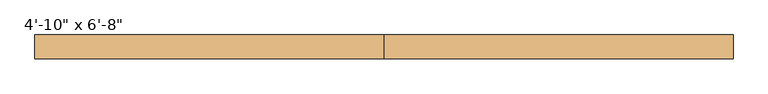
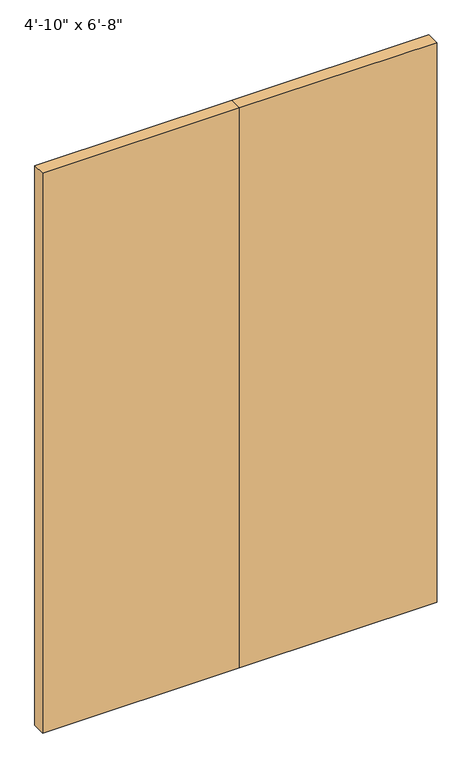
"""IFC4 building model written with IfcOpenShell, lengths in millimetres: door geometry."""

from ifc_helpers import new_model, si_unit, origin, origin_with_axes, place, context, project, spatial, polyline, outline, extrude, source, transform, mapped, element, save


def door_bacc9d13(model_context):
    return source(origin(), model_context, "Body", "SweptSolid", [
        extrude(outline(polyline([(0.0, 82.55), (736.6, 82.55), (736.6, 32.55), (0.0, 32.55), (0.0, 82.55)])), origin_with_axes(), (0.0, 0.0, 1.0), 2209.8),
        extrude(outline(polyline([(-736.6, 82.55), (0.0, 82.55), (0.0, 32.55), (-736.6, 32.55), (-736.6, 82.55)])), origin_with_axes(), (0.0, 0.0, 1.0), 2209.8),
    ])


if __name__ == "__main__":
    model = new_model("IFC4")
    model_context = context("Model", 3, world=origin())
    ifc_project = project(units=[si_unit("LENGTHUNIT", "METRE", prefix="MILLI")], contexts=[model_context])
    site = spatial("IfcSite", under=ifc_project)
    building = spatial("IfcBuilding", under=site)
    placement = place(None, origin())
    door_shape = door_bacc9d13(model_context)
    element("IfcDoor", 1, ObjectType="Planitar - Double Door_Flush Panel : 4'-10\" x 6'-8\"", at=placement, inside=building, context=model_context, shape_type="MappedRepresentation", body=[
        mapped(door_shape, transform((0.0, 0.0, 0.0), x_axis=(1.0, 0.0, 0.0), y_axis=(0.0, 1.0, 0.0), z_axis=(0.0, 0.0, 1.0))),
    ])
    save(model, "model.ifc")
